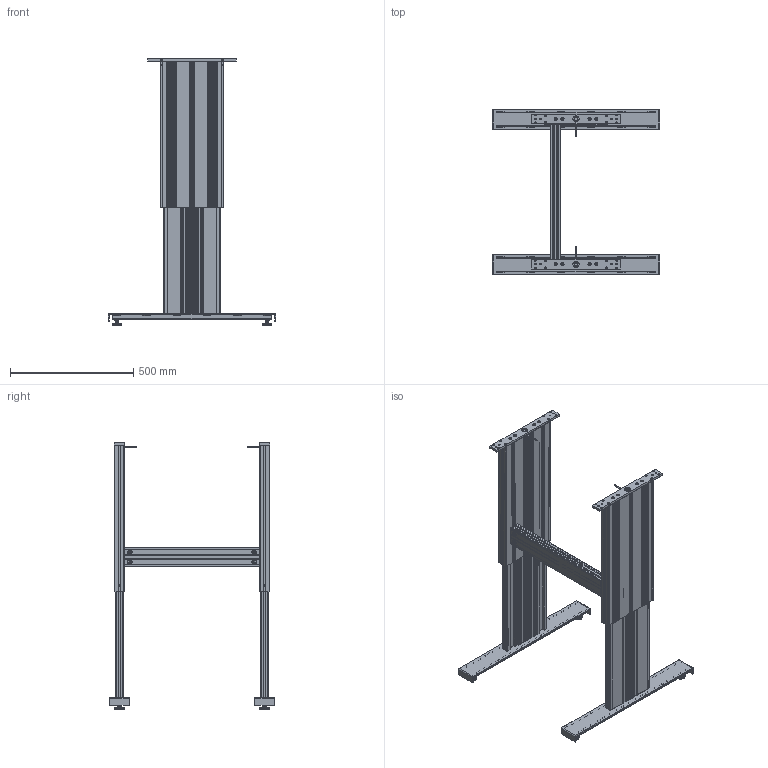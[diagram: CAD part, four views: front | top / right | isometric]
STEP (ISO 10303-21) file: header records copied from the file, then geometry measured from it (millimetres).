
FILE_DESCRIPTION(/* description */ ('Unknown'),/* implementation_level */ '2;1');
FILE_NAME(/* name */ '108.00430 Untergestell TT-2 1840 590_ausgefahren',/* time_stamp */ '2017-11-24T15:58:17+01:00',/* author */ ('Unknown'),/* organization */ ('Unknown'),/* preprocessor_version */ 'ST-DEVELOPER v16.7',/* originating_system */ 'DEX',/* authorisation */ $);
FILE_SCHEMA (('AUTOMOTIVE_DESIGN {1 0 10303 214 3 1 1}'));
Products named in the file (30): 108.00430; 106.00385_oa_0; 119.00201; 119.00152; 142.00188; 142.00166; 142.00031; 126.00102; 109.00025_oa_1; 115.00008_oa_2; 125.00063; 142.00021; 125.00021; 113.00002_70mm; 106.00385_oa_3; 109.00025_oa_4; 115.00008_oa_5; 115.00091; 119.00171; 142.00207; 127.00515; 127.00520; 127.00556; 127.00557; 127.00520_461_469_Kehlnaht 1_oa_6; 113.00095; 113.00099; 113.00096; 113.00097; 113.00098
Assembly tree (52 placements, depth 5):
  108.00430
    106.00385_oa_0
      119.00201
      119.00152
      142.00188  x2
      142.00166  x4
      142.00031
      126.00102
      109.00025_oa_1
        115.00008_oa_2
        125.00063
        142.00021
        125.00021
      113.00002_70mm
    106.00385_oa_3
      119.00201
      119.00152
      142.00188  x2
      142.00166  x4
      142.00031
      126.00102
      109.00025_oa_4
        115.00008_oa_5
        125.00063
        142.00021
        125.00021
      113.00002_70mm
    115.00091
      119.00171
      142.00207  x4
    127.00515  x2
      127.00520
        127.00556
        127.00557
        127.00520_461_469_Kehlnaht 1_oa_6
      113.00095
        113.00099
        113.00096
          113.00097
          113.00098
Bounding box: 680 x 670 x 1083.5 mm (x, y, z)
Volume: 6632449.8 mm3; surface area: 4771993.7 mm2
Topology: 73 solids, 81 shells, 4884 faces, 13898 edges, 9236 vertices
Faces by surface type: plane 3036, cylinder 1548, cone 194, torus 72, bspline 24, sphere 10
Full cylindrical faces by diameter (mm): 1.8 x4, 2.2 x2, 2.99 x2, 3.242 x4, 3.5 x2, 4 x6, 4.1 x2, 4.2 x2, 5 x12, 5.5 x8, 6.6 x8, 6.647 x16, 6.917 x4, 7.5 x4, 8 x16, 8.376 x6, 8.5 x20, 8.7 x8, 10 x8, 11.3 x8, 12 x4, 12.5 x10, 13 x4, 13.5 x6, 13.7 x2, 14.4 x2, 17.9 x4, 18 x16, 25 x10, 27.2 x4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
Entity records: 85317 total; most frequent: CARTESIAN_POINT 14590, ORIENTED_EDGE 13064, DIRECTION 12703, EDGE_CURVE 6532, LINE 4481, VECTOR 4481, VERTEX_POINT 4423, AXIS2_PLACEMENT_3D 4111
